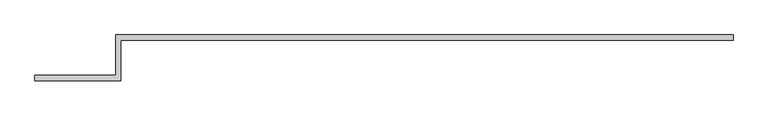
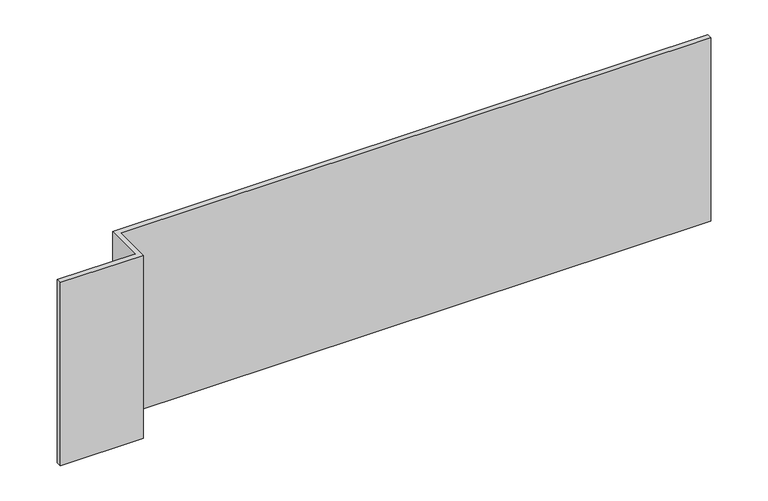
"""IFC4 building model written with IfcOpenShell, lengths in millimetres: proxy geometry, .ESPELHO : .ESPELHO."""

from ifc_helpers import new_model, si_unit, frame, origin, place, context, project, spatial, polyline, outline, extrude, source, transform, mapped, element, save


def generic_models_b15d3dd9(model_context):
    return source(origin(), model_context, "Body", "SweptSolid", [
        extrude(outline(polyline([(-4619.5493112, -12684.5871375), (-6897.2739616, -12684.5871375), (-6897.2739616, -12834.5871375), (-7217.2739616, -12834.5871375), (-7217.2739616, -12814.5871375), (-6917.2739616, -12814.5871375), (-6917.2739616, -12664.5871375), (-4619.5493112, -12664.5871375), (-4619.5493112, -12684.5871375)])), frame((0.0, 0.0, 1051.3302606), z_axis=(0.0, 0.0, 1.0), x_axis=(1.0, 0.0, 0.0)), (0.0, 0.0, 1.0), 748.6697394),
    ])


if __name__ == "__main__":
    model = new_model("IFC4")
    model_context = context("Model", 3, world=origin())
    ifc_project = project(units=[si_unit("LENGTHUNIT", "METRE", prefix="MILLI")], contexts=[model_context])
    site = spatial("IfcSite", under=ifc_project)
    building = spatial("IfcBuilding", under=site)
    placement = place(None, origin())
    generic_models_shape = generic_models_b15d3dd9(model_context)
    element("IfcBuildingElementProxy", 1, Name=".ESPELHO : .ESPELHO", ObjectType=".ESPELHO : .ESPELHO", at=placement, inside=building, context=model_context, shape_type="MappedRepresentation", body=[
        mapped(generic_models_shape, transform((0.0, 0.0, 0.0), x_axis=(1.0, 0.0, 0.0), y_axis=(0.0, 1.0, 0.0), z_axis=(0.0, 0.0, 1.0))),
    ])
    save(model, "model.ifc")
